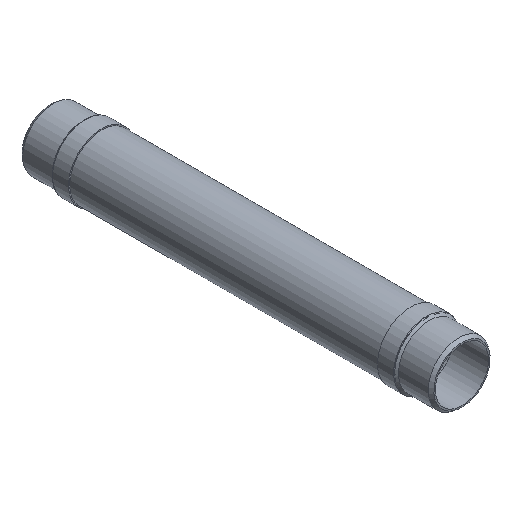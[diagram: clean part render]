
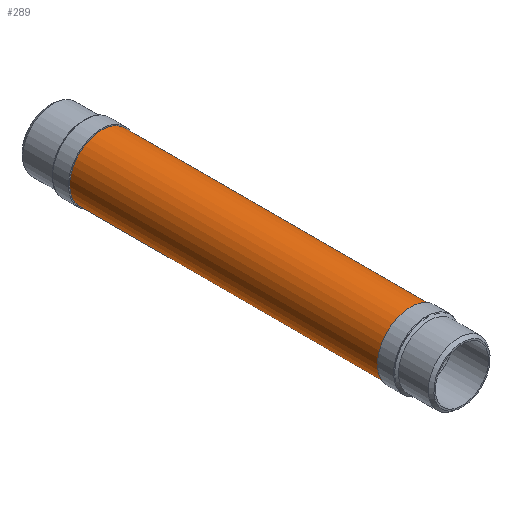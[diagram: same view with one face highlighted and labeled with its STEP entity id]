
A CAD part, isometric view. The second image highlights one B-rep face of the part: STEP entity #289.
In plain terms, the highlighted cylindrical face has radius 31.394 mm (diameter 62.789 mm), a full revolution.
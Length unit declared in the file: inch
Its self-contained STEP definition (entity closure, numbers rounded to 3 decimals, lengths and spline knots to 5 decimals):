
#34=FACE_BOUND('',#85,.T.);
#58=FACE_OUTER_BOUND('',#84,.T.);
#84=EDGE_LOOP('',(#204));
#85=EDGE_LOOP('',(#205));
#130=CIRCLE('',#321,1.236);
#131=CIRCLE('',#323,1.236);
#154=VERTEX_POINT('',#470);
#155=VERTEX_POINT('',#473);
#178=EDGE_CURVE('',#154,#154,#130,.T.);
#179=EDGE_CURVE('',#155,#155,#131,.T.);
#204=ORIENTED_EDGE('',*,*,#178,.T.);
#205=ORIENTED_EDGE('',*,*,#179,.T.);
#249=CYLINDRICAL_SURFACE('',#322,1.236);
#289=ADVANCED_FACE('',(#58,#34),#249,.T.);
#321=AXIS2_PLACEMENT_3D('',#471,#375,#376);
#322=AXIS2_PLACEMENT_3D('',#472,#377,#378);
#323=AXIS2_PLACEMENT_3D('',#474,#379,#380);
#375=DIRECTION('center_axis',(0.,1.,0.));
#376=DIRECTION('ref_axis',(-0.535,0.,0.845));
#377=DIRECTION('center_axis',(0.,1.,0.));
#378=DIRECTION('ref_axis',(-0.535,0.,0.845));
#379=DIRECTION('center_axis',(0.,-1.,0.));
#380=DIRECTION('ref_axis',(-0.535,0.,0.845));
#470=CARTESIAN_POINT('',(0.66146,1.375,-1.04411));
#471=CARTESIAN_POINT('Origin',(0.,1.375,0.));
#472=CARTESIAN_POINT('Origin',(0.,8.,0.));
#473=CARTESIAN_POINT('',(0.66146,14.625,-1.04411));
#474=CARTESIAN_POINT('Origin',(0.,14.625,0.));
